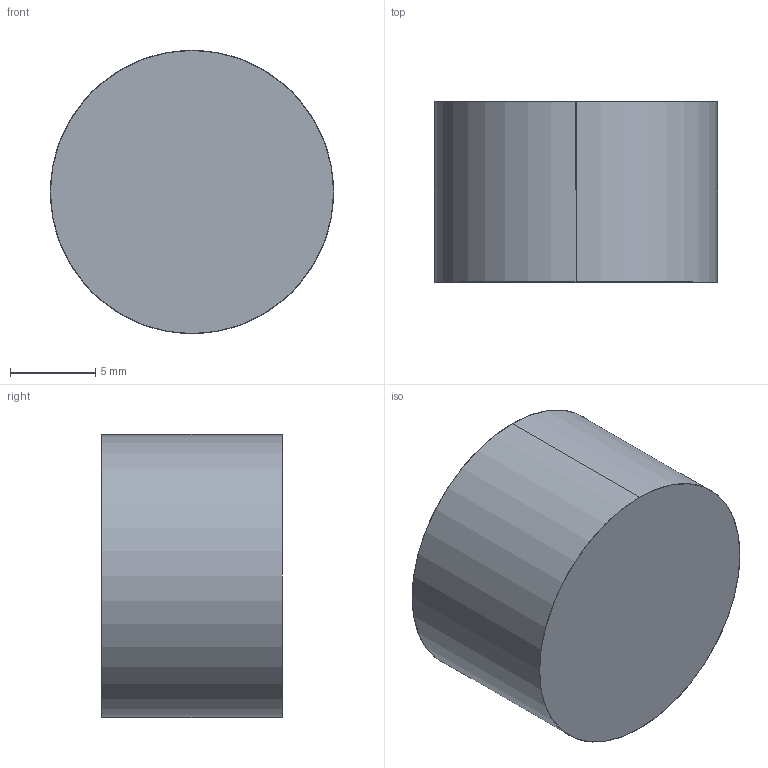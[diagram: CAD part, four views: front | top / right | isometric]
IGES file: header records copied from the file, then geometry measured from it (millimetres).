
Start section: SolidWorks IGES file using analytic representation for surfaces
Global section: file name: S:\Engineer\SW Files\R and D\Lane\Pressure Regulators\Defeatured\RBA08\Plug- 04 WK Fluid Port.IGS; native system: SolidWorks 2012; preprocessor: SolidWorks 2012; author: Lane.Gardner; date: 140724.083347; units: inch
Bounding box: 16.64 x 10.59 x 16.64 mm (x, y, z)
Surface area: 1144 mm2 (no closed solid volume)
Topology: 0 solids, 0 shells, 13 faces, 288 edges, 288 vertices
Faces by surface type: revolution 8, bspline 5
